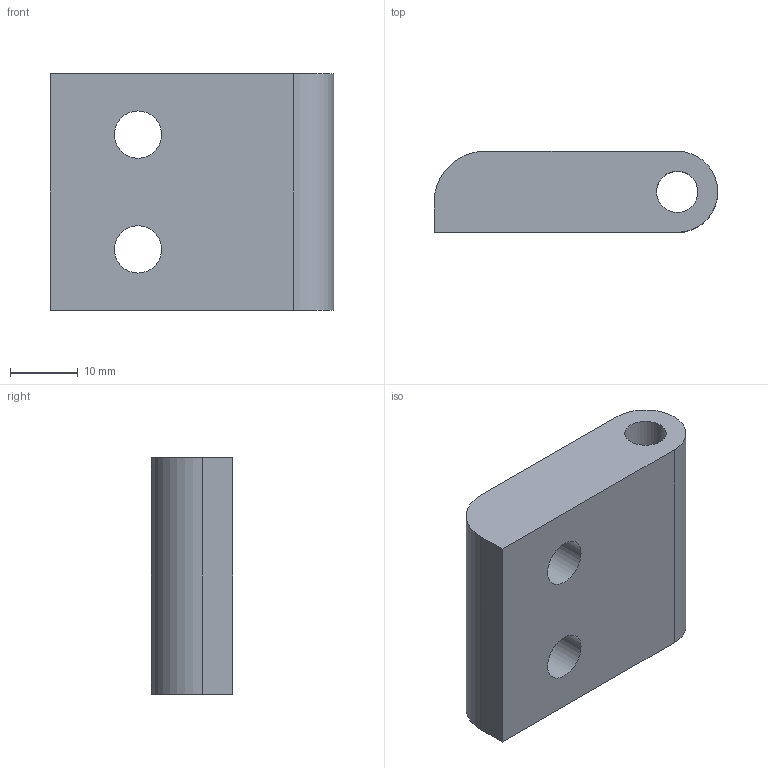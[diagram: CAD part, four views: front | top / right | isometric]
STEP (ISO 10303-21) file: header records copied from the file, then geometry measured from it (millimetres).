
FILE_DESCRIPTION (( 'STEP AP214' ), '1' );
FILE_NAME ('SN01002.step', '2024-12-03T16:31:23', ( '' ), ( '' ), 'SwSTEP 2.0', 'SolidWorks 2023', '' );
FILE_SCHEMA (( 'AUTOMOTIVE_DESIGN' ));
Length unit declared in the file: millimetre
Products named in the file (1): SN01002
Bounding box: 42 x 12 x 35 mm (x, y, z)
Volume: 14051.6 mm3; surface area: 5576.9 mm2
Topology: 1 solids, 1 shells, 14 faces, 34 edges, 22 vertices
Faces by surface type: plane 7, cylinder 7
Full cylindrical faces by diameter (mm): 6.1 x1, 7 x2, 11 x2
Entity records: 408 total; most frequent: DIRECTION 71, CARTESIAN_POINT 62, ORIENTED_EDGE 54, AXIS2_PLACEMENT_3D 29, EDGE_CURVE 27, EDGE_LOOP 25, VERTEX_POINT 20, FACE_OUTER_BOUND 19
